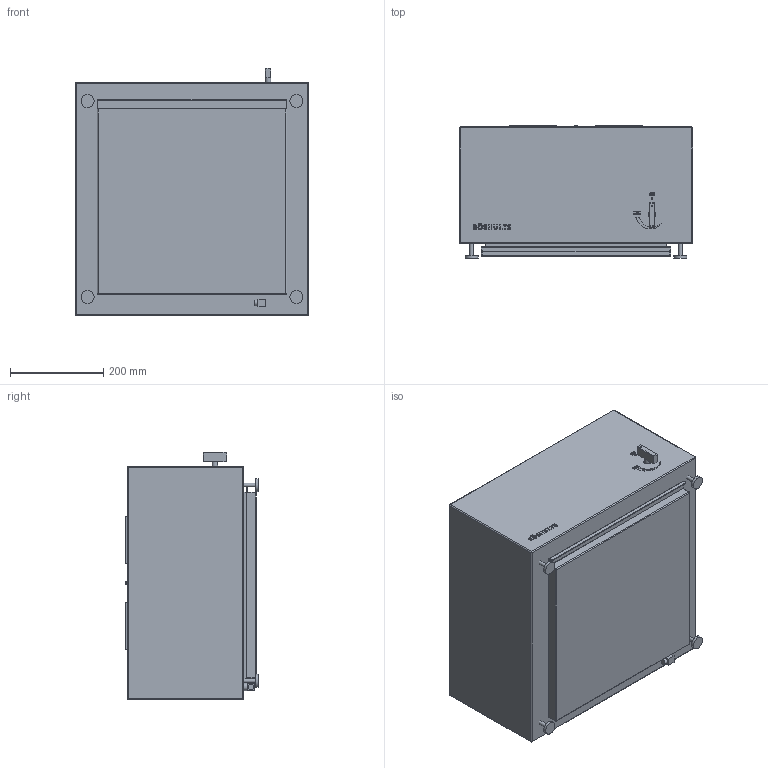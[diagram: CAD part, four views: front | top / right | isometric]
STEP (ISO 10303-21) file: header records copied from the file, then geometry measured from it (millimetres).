
FILE_DESCRIPTION(/* description */ (''),/* implementation_level */ '2;1');
FILE_NAME(/* name */ 'C:\INVENTOR\Workspace\# ARKITEKT FILER\Modules\Cooker Hob X\Cooker Hob 2020.stp',/* time_stamp */ '2020-05-28T09:50:15+02:00',/* author */ ('Röshults'),/* organization */ (''),/* preprocessor_version */ 'ST-DEVELOPER v17.2',/* originating_system */ 'Autodesk Inventor 2019',/* authorisation */ '');
FILE_SCHEMA (('AUTOMOTIVE_DESIGN { 1 0 10303 214 3 1 1 }'));
Length unit declared in the file: millimetre
Products named in the file (12): Cooker Hob 2020; Cooker Hob 2020 Body; 100673; 100244; 100674; 100674-1; 100674-2; 100674-3; 100675; 100675-1; 100675-2; 100288
Assembly tree (20 placements, depth 3):
  Cooker Hob 2020
    Cooker Hob 2020 Body
    100673
    100244
    100674
      100674-1
      100674-2
      100674-3  x4
    100675
      100675-1
      100675-2  x4
    100288  x4
Bounding box: 500 x 284 x 530 mm (x, y, z)
Volume: 60986493 mm3; surface area: 1383164.9 mm2
Topology: 19 solids, 19 shells, 1022 faces, 2804 edges, 1859 vertices
Faces by surface type: plane 595, bspline 170, cylinder 151, cone 91, sphere 12, torus 3
Full cylindrical faces by diameter (mm): 4 x1, 8 x4, 10 x1, 12 x2, 15 x1, 16 x1, 26 x1, 28 x4, 37 x1, 41 x1, 45 x1, 65 x1, 69 x1, 140 x1, 186.5 x1, 213 x1, 217 x2, 225 x1, 285 x1
Entity records: 36486 total; most frequent: CARTESIAN_POINT 13804, ORIENTED_EDGE 5008, DIRECTION 4049, EDGE_CURVE 2504, VERTEX_POINT 1655, LINE 1613, VECTOR 1613, AXIS2_PLACEMENT_3D 1218
